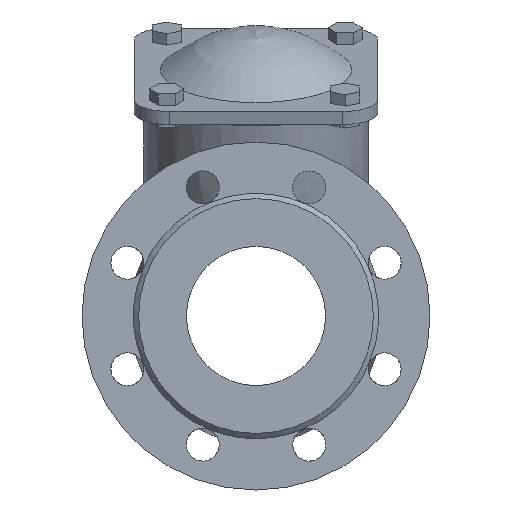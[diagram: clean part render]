
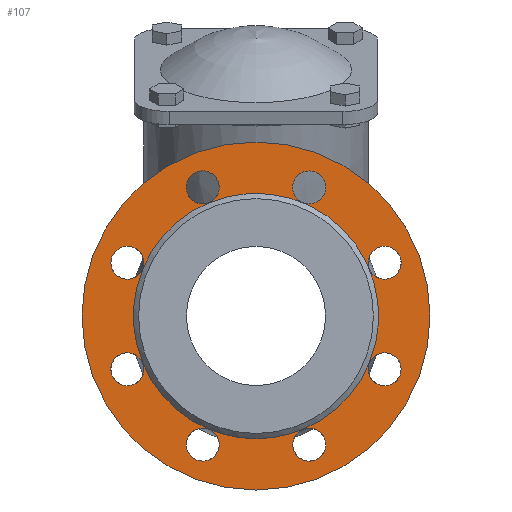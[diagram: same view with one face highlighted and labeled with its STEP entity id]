
A CAD part, left-side view. The second image highlights one B-rep face of the part: STEP entity #107.
In plain terms, the highlighted planar face has unit normal (-1, 0, 0).
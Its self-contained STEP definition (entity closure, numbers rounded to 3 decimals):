
#107=ADVANCED_FACE('',(#1392,#1394,#1396,#1398,#1400,#1402,#1404,#1406,#1408,#1410),
#1412,.T.);
#1392=FACE_BOUND('',#1393,.T.);
#1393=EDGE_LOOP('',(#6143));
#1394=FACE_BOUND('',#1395,.T.);
#1395=EDGE_LOOP('',(#6144,#6145));
#1396=FACE_BOUND('',#1397,.T.);
#1397=EDGE_LOOP('',(#6146));
#1398=FACE_BOUND('',#1399,.T.);
#1399=EDGE_LOOP('',(#6147,#6148,#6149,#6150,#6151,#6152,#6153));
#1400=FACE_BOUND('',#1401,.T.);
#1401=EDGE_LOOP('',(#6154));
#1402=FACE_BOUND('',#1403,.T.);
#1403=EDGE_LOOP('',(#6155,#6156));
#1404=FACE_BOUND('',#1405,.T.);
#1405=EDGE_LOOP('',(#6157,#6158));
#1406=FACE_BOUND('',#1407,.T.);
#1407=EDGE_LOOP('',(#6159,#6160));
#1408=FACE_BOUND('',#1409,.T.);
#1409=EDGE_LOOP('',(#6161,#6162));
#1410=FACE_BOUND('',#1411,.T.);
#1411=EDGE_LOOP('',(#6163,#6164));
#1412=PLANE('',#1413);
#1413=AXIS2_PLACEMENT_3D('',#1414,#1415,#1416);
#1414=CARTESIAN_POINT('',(-118.019,0.,0.));
#1415=DIRECTION('',(-1.,0.,0.));
#1416=DIRECTION('',(0.,0.,-1.));
#6143=ORIENTED_EDGE('',*,*,#6844,.F.);
#6144=ORIENTED_EDGE('',*,*,#6845,.T.);
#6145=ORIENTED_EDGE('',*,*,#6846,.T.);
#6146=ORIENTED_EDGE('',*,*,#6847,.T.);
#6147=ORIENTED_EDGE('',*,*,#6826,.T.);
#6148=ORIENTED_EDGE('',*,*,#6825,.T.);
#6149=ORIENTED_EDGE('',*,*,#6824,.T.);
#6150=ORIENTED_EDGE('',*,*,#6823,.T.);
#6151=ORIENTED_EDGE('',*,*,#6822,.T.);
#6152=ORIENTED_EDGE('',*,*,#6828,.T.);
#6153=ORIENTED_EDGE('',*,*,#6827,.T.);
#6154=ORIENTED_EDGE('',*,*,#6848,.T.);
#6155=ORIENTED_EDGE('',*,*,#6849,.T.);
#6156=ORIENTED_EDGE('',*,*,#6850,.T.);
#6157=ORIENTED_EDGE('',*,*,#6851,.T.);
#6158=ORIENTED_EDGE('',*,*,#6852,.T.);
#6159=ORIENTED_EDGE('',*,*,#6853,.T.);
#6160=ORIENTED_EDGE('',*,*,#6854,.T.);
#6161=ORIENTED_EDGE('',*,*,#6855,.T.);
#6162=ORIENTED_EDGE('',*,*,#6856,.T.);
#6163=ORIENTED_EDGE('',*,*,#6857,.T.);
#6164=ORIENTED_EDGE('',*,*,#6858,.T.);
#6822=EDGE_CURVE('',#7192,#7193,#7194,.T.);
#6823=EDGE_CURVE('',#7195,#7192,#7196,.T.);
#6824=EDGE_CURVE('',#7197,#7195,#7198,.T.);
#6825=EDGE_CURVE('',#7199,#7197,#7200,.T.);
#6826=EDGE_CURVE('',#7201,#7199,#7202,.T.);
#6827=EDGE_CURVE('',#7203,#7201,#7204,.T.);
#6828=EDGE_CURVE('',#7193,#7203,#7205,.T.);
#6844=EDGE_CURVE('',#7230,#7230,#7231,.T.);
#6845=EDGE_CURVE('',#7203,#7232,#7233,.F.);
#6846=EDGE_CURVE('',#7232,#7203,#7234,.F.);
#6847=EDGE_CURVE('',#7235,#7235,#7236,.F.);
#6848=EDGE_CURVE('',#7237,#7237,#7238,.F.);
#6849=EDGE_CURVE('',#7201,#7239,#7240,.F.);
#6850=EDGE_CURVE('',#7239,#7201,#7241,.F.);
#6851=EDGE_CURVE('',#7199,#7242,#7243,.F.);
#6852=EDGE_CURVE('',#7242,#7199,#7244,.F.);
#6853=EDGE_CURVE('',#7195,#7245,#7246,.F.);
#6854=EDGE_CURVE('',#7245,#7195,#7247,.F.);
#6855=EDGE_CURVE('',#7192,#7248,#7249,.F.);
#6856=EDGE_CURVE('',#7248,#7192,#7250,.F.);
#6857=EDGE_CURVE('',#7193,#7251,#7252,.F.);
#6858=EDGE_CURVE('',#7251,#7193,#7253,.F.);
#7192=VERTEX_POINT('',#7828);
#7193=VERTEX_POINT('',#7829);
#7194=CIRCLE('',#7830,70.5);
#7195=VERTEX_POINT('',#7834);
#7196=CIRCLE('',#7835,70.5);
#7197=VERTEX_POINT('',#7839);
#7198=CIRCLE('',#7840,70.5);
#7199=VERTEX_POINT('',#7844);
#7200=CIRCLE('',#7845,70.5);
#7201=VERTEX_POINT('',#7849);
#7202=CIRCLE('',#7850,70.5);
#7203=VERTEX_POINT('',#7854);
#7204=CIRCLE('',#7855,70.5);
#7205=CIRCLE('',#7859,70.5);
#7230=VERTEX_POINT('',#7932);
#7231=CIRCLE('',#7933,100.);
#7232=VERTEX_POINT('',#7937);
#7233=CIRCLE('',#7938,9.5);
#7234=CIRCLE('',#7942,9.5);
#7235=VERTEX_POINT('',#7946);
#7236=CIRCLE('',#7947,9.5);
#7237=VERTEX_POINT('',#7951);
#7238=CIRCLE('',#7952,9.5);
#7239=VERTEX_POINT('',#7956);
#7240=CIRCLE('',#7957,9.5);
#7241=CIRCLE('',#7961,9.5);
#7242=VERTEX_POINT('',#7965);
#7243=CIRCLE('',#7966,9.5);
#7244=CIRCLE('',#7970,9.5);
#7245=VERTEX_POINT('',#7974);
#7246=CIRCLE('',#7975,9.5);
#7247=CIRCLE('',#7979,9.5);
#7248=VERTEX_POINT('',#7983);
#7249=CIRCLE('',#7984,9.5);
#7250=CIRCLE('',#7988,9.5);
#7251=VERTEX_POINT('',#7992);
#7252=CIRCLE('',#7993,9.5);
#7253=CIRCLE('',#7997,9.5);
#7828=CARTESIAN_POINT('',(-118.019,65.134,-26.979));
#7829=CARTESIAN_POINT('',(-118.019,65.134,26.979));
#7830=AXIS2_PLACEMENT_3D('',#7831,#7832,#7833);
#7831=CARTESIAN_POINT('',(-118.019,0.,0.));
#7832=DIRECTION('',(1.,0.,0.));
#7833=DIRECTION('',(0.,0.924,-0.383));
#7834=CARTESIAN_POINT('',(-118.019,26.979,-65.134));
#7835=AXIS2_PLACEMENT_3D('',#7836,#7837,#7838);
#7836=CARTESIAN_POINT('',(-118.019,0.,0.));
#7837=DIRECTION('',(1.,0.,0.));
#7838=DIRECTION('',(0.,0.383,-0.924));
#7839=CARTESIAN_POINT('',(-118.019,0.,-70.5));
#7840=AXIS2_PLACEMENT_3D('',#7841,#7842,#7843);
#7841=CARTESIAN_POINT('',(-118.019,0.,0.));
#7842=DIRECTION('',(1.,0.,0.));
#7843=DIRECTION('',(0.,0.,-1.));
#7844=CARTESIAN_POINT('',(-118.019,-26.979,-65.134));
#7845=AXIS2_PLACEMENT_3D('',#7846,#7847,#7848);
#7846=CARTESIAN_POINT('',(-118.019,0.,0.));
#7847=DIRECTION('',(1.,0.,0.));
#7848=DIRECTION('',(0.,-0.383,-0.924));
#7849=CARTESIAN_POINT('',(-118.019,-65.134,-26.979));
#7850=AXIS2_PLACEMENT_3D('',#7851,#7852,#7853);
#7851=CARTESIAN_POINT('',(-118.019,0.,0.));
#7852=DIRECTION('',(1.,0.,0.));
#7853=DIRECTION('',(0.,-0.924,-0.383));
#7854=CARTESIAN_POINT('',(-118.019,26.979,65.134));
#7855=AXIS2_PLACEMENT_3D('',#7856,#7857,#7858);
#7856=CARTESIAN_POINT('',(-118.019,0.,0.));
#7857=DIRECTION('',(1.,0.,0.));
#7858=DIRECTION('',(0.,0.383,0.924));
#7859=AXIS2_PLACEMENT_3D('',#7860,#7861,#7862);
#7860=CARTESIAN_POINT('',(-118.019,0.,0.));
#7861=DIRECTION('',(1.,0.,0.));
#7862=DIRECTION('',(0.,0.924,0.383));
#7932=CARTESIAN_POINT('',(-118.019,0.,-100.));
#7933=AXIS2_PLACEMENT_3D('',#7934,#7935,#7936);
#7934=CARTESIAN_POINT('',(-118.019,0.,0.));
#7935=DIRECTION('',(1.,0.,0.));
#7936=DIRECTION('',(0.,0.,-1.));
#7937=CARTESIAN_POINT('',(-118.019,23.897,80.628));
#7938=AXIS2_PLACEMENT_3D('',#7939,#7940,#7941);
#7939=CARTESIAN_POINT('',(-118.019,30.615,73.91));
#7940=DIRECTION('',(-1.,0.,0.));
#7941=DIRECTION('',(0.,-0.707,0.707));
#7942=AXIS2_PLACEMENT_3D('',#7943,#7944,#7945);
#7943=CARTESIAN_POINT('',(-118.019,30.615,73.91));
#7944=DIRECTION('',(-1.,0.,0.));
#7945=DIRECTION('',(0.,-0.383,-0.924));
#7946=CARTESIAN_POINT('',(-118.019,-40.115,73.91));
#7947=AXIS2_PLACEMENT_3D('',#7948,#7949,#7950);
#7948=CARTESIAN_POINT('',(-118.019,-30.615,73.91));
#7949=DIRECTION('',(-1.,0.,0.));
#7950=DIRECTION('',(0.,-1.,0.));
#7951=CARTESIAN_POINT('',(-118.019,-80.628,23.897));
#7952=AXIS2_PLACEMENT_3D('',#7953,#7954,#7955);
#7953=CARTESIAN_POINT('',(-118.019,-73.91,30.615));
#7954=DIRECTION('',(-1.,0.,0.));
#7955=DIRECTION('',(0.,-0.707,-0.707));
#7956=CARTESIAN_POINT('',(-118.019,-73.91,-40.115));
#7957=AXIS2_PLACEMENT_3D('',#7958,#7959,#7960);
#7958=CARTESIAN_POINT('',(-118.019,-73.91,-30.615));
#7959=DIRECTION('',(-1.,0.,0.));
#7960=DIRECTION('',(0.,0.,-1.));
#7961=AXIS2_PLACEMENT_3D('',#7962,#7963,#7964);
#7962=CARTESIAN_POINT('',(-118.019,-73.91,-30.615));
#7963=DIRECTION('',(-1.,0.,0.));
#7964=DIRECTION('',(0.,0.924,0.383));
#7965=CARTESIAN_POINT('',(-118.019,-23.897,-80.628));
#7966=AXIS2_PLACEMENT_3D('',#7967,#7968,#7969);
#7967=CARTESIAN_POINT('',(-118.019,-30.615,-73.91));
#7968=DIRECTION('',(-1.,0.,0.));
#7969=DIRECTION('',(0.,0.707,-0.707));
#7970=AXIS2_PLACEMENT_3D('',#7971,#7972,#7973);
#7971=CARTESIAN_POINT('',(-118.019,-30.615,-73.91));
#7972=DIRECTION('',(-1.,0.,0.));
#7973=DIRECTION('',(0.,0.383,0.924));
#7974=CARTESIAN_POINT('',(-118.019,40.115,-73.91));
#7975=AXIS2_PLACEMENT_3D('',#7976,#7977,#7978);
#7976=CARTESIAN_POINT('',(-118.019,30.615,-73.91));
#7977=DIRECTION('',(-1.,0.,0.));
#7978=DIRECTION('',(0.,1.,0.));
#7979=AXIS2_PLACEMENT_3D('',#7980,#7981,#7982);
#7980=CARTESIAN_POINT('',(-118.019,30.615,-73.91));
#7981=DIRECTION('',(-1.,0.,0.));
#7982=DIRECTION('',(0.,-0.383,0.924));
#7983=CARTESIAN_POINT('',(-118.019,80.628,-23.897));
#7984=AXIS2_PLACEMENT_3D('',#7985,#7986,#7987);
#7985=CARTESIAN_POINT('',(-118.019,73.91,-30.615));
#7986=DIRECTION('',(-1.,0.,0.));
#7987=DIRECTION('',(0.,0.707,0.707));
#7988=AXIS2_PLACEMENT_3D('',#7989,#7990,#7991);
#7989=CARTESIAN_POINT('',(-118.019,73.91,-30.615));
#7990=DIRECTION('',(-1.,0.,0.));
#7991=DIRECTION('',(0.,-0.924,0.383));
#7992=CARTESIAN_POINT('',(-118.019,73.91,40.115));
#7993=AXIS2_PLACEMENT_3D('',#7994,#7995,#7996);
#7994=CARTESIAN_POINT('',(-118.019,73.91,30.615));
#7995=DIRECTION('',(-1.,0.,0.));
#7996=DIRECTION('',(0.,0.,1.));
#7997=AXIS2_PLACEMENT_3D('',#7998,#7999,#8000);
#7998=CARTESIAN_POINT('',(-118.019,73.91,30.615));
#7999=DIRECTION('',(-1.,0.,0.));
#8000=DIRECTION('',(0.,-0.924,-0.383));
